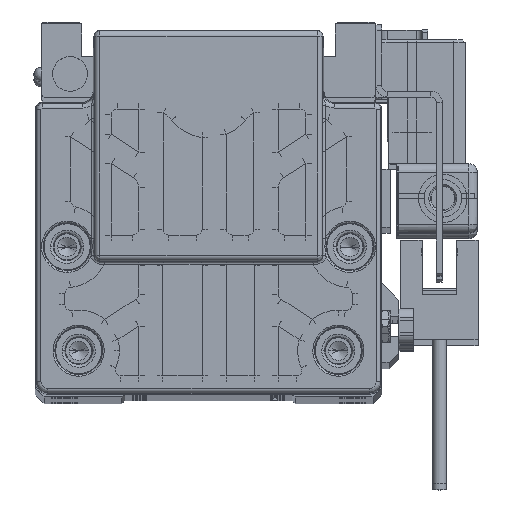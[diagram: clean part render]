
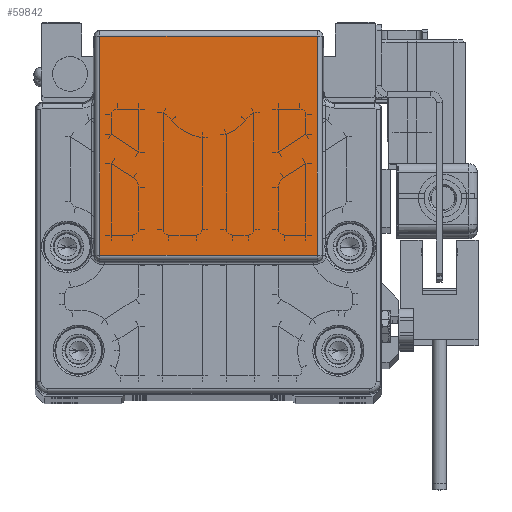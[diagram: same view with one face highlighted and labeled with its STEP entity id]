
A CAD part, top view. The second image highlights one B-rep face of the part: STEP entity #59842.
In plain terms, the highlighted planar face has unit normal (0, 0, 1) as drawn and (0, 0, -1) by its records, which use the part's own axes.
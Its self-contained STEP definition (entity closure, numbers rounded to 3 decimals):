
#5256 = DIRECTION ( 'NONE',  ( 1., 0., 0. ) ) ;
#11881 = FACE_OUTER_BOUND ( 'NONE', #12062, .T. ) ;
#12062 = EDGE_LOOP ( 'NONE', ( #81718, #81261, #16769, #43043 ) ) ;
#12704 = CARTESIAN_POINT ( 'NONE',  ( 19., 24.5, -143. ) ) ;
#16769 = ORIENTED_EDGE ( 'NONE', *, *, #51496, .F. ) ;
#20000 = EDGE_CURVE ( 'NONE', #77709, #77718, #21689, .T. ) ;
#21689 = LINE ( 'NONE', #47186, #26174 ) ;
#24161 = CARTESIAN_POINT ( 'NONE',  ( -18.808, 62.447, -143. ) ) ;
#26032 = DIRECTION ( 'NONE',  ( 0., -1., 0. ) ) ;
#26174 = VECTOR ( 'NONE', #55910, 1000. ) ;
#29316 = EDGE_CURVE ( 'NONE', #77718, #81212, #47396, .T. ) ;
#32814 = CARTESIAN_POINT ( 'NONE',  ( 18.808, 24.518, -143. ) ) ;
#33634 = CARTESIAN_POINT ( 'NONE',  ( -18.808, 24.518, -143. ) ) ;
#34750 = VECTOR ( 'NONE', #35657, 1000. ) ;
#35657 = DIRECTION ( 'NONE',  ( 0., 1., 0. ) ) ;
#36969 = LINE ( 'NONE', #76196, #52264 ) ;
#38589 = DIRECTION ( 'NONE',  ( 0., 1., 0. ) ) ;
#43043 = ORIENTED_EDGE ( 'NONE', *, *, #62770, .T. ) ;
#44903 = VERTEX_POINT ( 'NONE', #24161 ) ;
#46486 = LINE ( 'NONE', #58993, #56779 ) ;
#47186 = CARTESIAN_POINT ( 'NONE',  ( 19., 24.518, -143. ) ) ;
#47396 = LINE ( 'NONE', #61551, #34750 ) ;
#49886 = PLANE ( 'NONE',  #69282 ) ;
#51496 = EDGE_CURVE ( 'NONE', #44903, #77709, #46486, .T. ) ;
#52264 = VECTOR ( 'NONE', #5256, 1000. ) ;
#55910 = DIRECTION ( 'NONE',  ( 1., 0., 0. ) ) ;
#56779 = VECTOR ( 'NONE', #26032, 1000. ) ;
#58993 = CARTESIAN_POINT ( 'NONE',  ( -18.808, 31., -143. ) ) ;
#59842 = ADVANCED_FACE ( 'NONE', ( #11881 ), #49886, .T. ) ;
#61551 = CARTESIAN_POINT ( 'NONE',  ( 18.808, 24.5, -143. ) ) ;
#62770 = EDGE_CURVE ( 'NONE', #44903, #81212, #36969, .T. ) ;
#64748 = CARTESIAN_POINT ( 'NONE',  ( 18.808, 62.447, -143. ) ) ;
#69282 = AXIS2_PLACEMENT_3D ( 'NONE', #12704, #76150, #38589 ) ;
#76150 = DIRECTION ( 'NONE',  ( 0., 0., -1. ) ) ;
#76196 = CARTESIAN_POINT ( 'NONE',  ( 19., 62.447, -143. ) ) ;
#77709 = VERTEX_POINT ( 'NONE', #33634 ) ;
#77718 = VERTEX_POINT ( 'NONE', #32814 ) ;
#81212 = VERTEX_POINT ( 'NONE', #64748 ) ;
#81261 = ORIENTED_EDGE ( 'NONE', *, *, #20000, .F. ) ;
#81718 = ORIENTED_EDGE ( 'NONE', *, *, #29316, .F. ) ;
